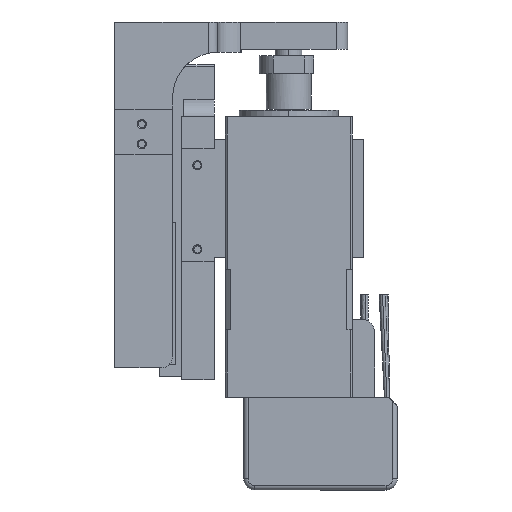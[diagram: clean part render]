
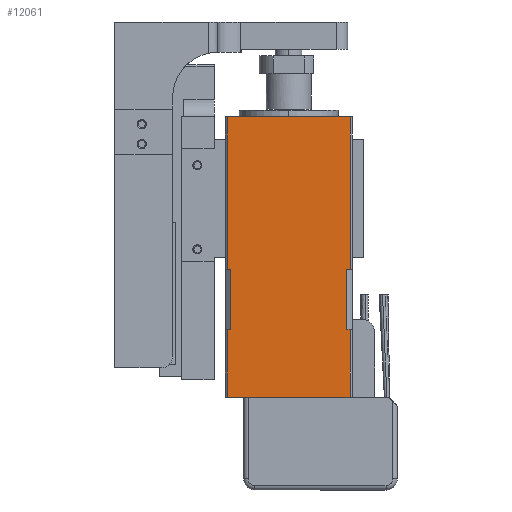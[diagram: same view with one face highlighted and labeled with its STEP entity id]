
A CAD part, left-side view. The second image highlights one B-rep face of the part: STEP entity #12061.
In plain terms, the highlighted planar face has unit normal (-1, 0, 0).
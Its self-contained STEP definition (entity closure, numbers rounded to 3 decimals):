
#73 = LINE ( 'NONE', #383, #12401 ) ;
#148 = CARTESIAN_POINT ( 'NONE',  ( -14., -12.845, -33.7 ) ) ;
#335 = DIRECTION ( 'NONE',  ( 0., 0., -1. ) ) ;
#383 = CARTESIAN_POINT ( 'NONE',  ( -14., -13.574, -5. ) ) ;
#459 = DIRECTION ( 'NONE',  ( 1., 0., 0. ) ) ;
#648 = CARTESIAN_POINT ( 'NONE',  ( -14., -14., 0. ) ) ;
#971 = LINE ( 'NONE', #12587, #11024 ) ;
#994 = VERTEX_POINT ( 'NONE', #148 ) ;
#1043 = EDGE_CURVE ( 'NONE', #994, #1183, #2424, .T. ) ;
#1183 = VERTEX_POINT ( 'NONE', #4510 ) ;
#1210 = CARTESIAN_POINT ( 'NONE',  ( -14., 13.574, -62. ) ) ;
#1272 = CARTESIAN_POINT ( 'NONE',  ( -14., -13.574, -62. ) ) ;
#1321 = ORIENTED_EDGE ( 'NONE', *, *, #2372, .T. ) ;
#1590 = LINE ( 'NONE', #648, #8753 ) ;
#1764 = LINE ( 'NONE', #7436, #4047 ) ;
#1771 = CARTESIAN_POINT ( 'NONE',  ( -14., 13.574, -33.7 ) ) ;
#1934 = VECTOR ( 'NONE', #335, 1000. ) ;
#2056 = CARTESIAN_POINT ( 'NONE',  ( -14., 13.574, -62. ) ) ;
#2077 = ORIENTED_EDGE ( 'NONE', *, *, #3410, .T. ) ;
#2198 = ORIENTED_EDGE ( 'NONE', *, *, #12010, .F. ) ;
#2221 = FACE_OUTER_BOUND ( 'NONE', #9623, .T. ) ;
#2355 = ORIENTED_EDGE ( 'NONE', *, *, #7092, .T. ) ;
#2372 = EDGE_CURVE ( 'NONE', #3060, #2985, #11841, .T. ) ;
#2424 = LINE ( 'NONE', #7195, #9880 ) ;
#2495 = LINE ( 'NONE', #7524, #12542 ) ;
#2543 = LINE ( 'NONE', #5183, #1934 ) ;
#2663 = CARTESIAN_POINT ( 'NONE',  ( -14., -12.845, -47. ) ) ;
#2665 = DIRECTION ( 'NONE',  ( 0., -1., 0. ) ) ;
#2985 = VERTEX_POINT ( 'NONE', #2056 ) ;
#3014 = ORIENTED_EDGE ( 'NONE', *, *, #4073, .F. ) ;
#3060 = VERTEX_POINT ( 'NONE', #9915 ) ;
#3276 = DIRECTION ( 'NONE',  ( 0., 0., 1. ) ) ;
#3364 = CARTESIAN_POINT ( 'NONE',  ( -14., -13.574, 0. ) ) ;
#3372 = ORIENTED_EDGE ( 'NONE', *, *, #1043, .T. ) ;
#3410 = EDGE_CURVE ( 'NONE', #5953, #6923, #6383, .T. ) ;
#3533 = DIRECTION ( 'NONE',  ( 0., -1., 0. ) ) ;
#3540 = LINE ( 'NONE', #1210, #6746 ) ;
#4027 = VERTEX_POINT ( 'NONE', #1272 ) ;
#4047 = VECTOR ( 'NONE', #8410, 1000. ) ;
#4073 = EDGE_CURVE ( 'NONE', #994, #4348, #10000, .T. ) ;
#4074 = VECTOR ( 'NONE', #6298, 1000. ) ;
#4348 = VERTEX_POINT ( 'NONE', #2663 ) ;
#4469 = CARTESIAN_POINT ( 'NONE',  ( -14., 13.574, 0. ) ) ;
#4510 = CARTESIAN_POINT ( 'NONE',  ( -14., -13.574, -33.7 ) ) ;
#4564 = EDGE_CURVE ( 'NONE', #6340, #5953, #2543, .T. ) ;
#5129 = CARTESIAN_POINT ( 'NONE',  ( -14., 13.574, -33.7 ) ) ;
#5183 = CARTESIAN_POINT ( 'NONE',  ( -14., 13.574, -5. ) ) ;
#5188 = DIRECTION ( 'NONE',  ( 0., 0., -1. ) ) ;
#5244 = ORIENTED_EDGE ( 'NONE', *, *, #10934, .F. ) ;
#5288 = CARTESIAN_POINT ( 'NONE',  ( -14., 13.574, -47. ) ) ;
#5294 = AXIS2_PLACEMENT_3D ( 'NONE', #6288, #459, #7274 ) ;
#5481 = ORIENTED_EDGE ( 'NONE', *, *, #7340, .F. ) ;
#5547 = VECTOR ( 'NONE', #5188, 1000. ) ;
#5830 = ORIENTED_EDGE ( 'NONE', *, *, #4564, .T. ) ;
#5953 = VERTEX_POINT ( 'NONE', #1771 ) ;
#6224 = DIRECTION ( 'NONE',  ( 0., -1., 0. ) ) ;
#6288 = CARTESIAN_POINT ( 'NONE',  ( -14., 13.574, -47. ) ) ;
#6298 = DIRECTION ( 'NONE',  ( 0., 0., -1. ) ) ;
#6340 = VERTEX_POINT ( 'NONE', #4469 ) ;
#6383 = LINE ( 'NONE', #5129, #8363 ) ;
#6746 = VECTOR ( 'NONE', #8037, 1000. ) ;
#6828 = VECTOR ( 'NONE', #7190, 1000. ) ;
#6923 = VERTEX_POINT ( 'NONE', #7965 ) ;
#7072 = DIRECTION ( 'NONE',  ( 0., -1., 0. ) ) ;
#7092 = EDGE_CURVE ( 'NONE', #1183, #12483, #73, .T. ) ;
#7190 = DIRECTION ( 'NONE',  ( 0., 0., -1. ) ) ;
#7195 = CARTESIAN_POINT ( 'NONE',  ( -14., 13.574, -33.7 ) ) ;
#7274 = DIRECTION ( 'NONE',  ( 0., -1., 0. ) ) ;
#7340 = EDGE_CURVE ( 'NONE', #4348, #11099, #2495, .T. ) ;
#7436 = CARTESIAN_POINT ( 'NONE',  ( -14., 13.574, -47. ) ) ;
#7495 = EDGE_CURVE ( 'NONE', #6923, #10459, #971, .T. ) ;
#7524 = CARTESIAN_POINT ( 'NONE',  ( -14., 13.574, -47. ) ) ;
#7965 = CARTESIAN_POINT ( 'NONE',  ( -14., 12.845, -33.7 ) ) ;
#8037 = DIRECTION ( 'NONE',  ( 0., -1., 0. ) ) ;
#8363 = VECTOR ( 'NONE', #7072, 1000. ) ;
#8410 = DIRECTION ( 'NONE',  ( 0., -1., 0. ) ) ;
#8578 = EDGE_CURVE ( 'NONE', #2985, #4027, #3540, .T. ) ;
#8711 = DIRECTION ( 'NONE',  ( 0., 0., -1. ) ) ;
#8753 = VECTOR ( 'NONE', #3533, 1000. ) ;
#9557 = ORIENTED_EDGE ( 'NONE', *, *, #11827, .F. ) ;
#9623 = EDGE_LOOP ( 'NONE', ( #3014, #3372, #2355, #9557, #5830, #2077, #10625, #5244, #1321, #10681, #2198, #5481 ) ) ;
#9662 = CARTESIAN_POINT ( 'NONE',  ( -14., -13.574, -47. ) ) ;
#9880 = VECTOR ( 'NONE', #6224, 1000. ) ;
#9915 = CARTESIAN_POINT ( 'NONE',  ( -14., 13.574, -47. ) ) ;
#10000 = LINE ( 'NONE', #12034, #6828 ) ;
#10097 = PLANE ( 'NONE',  #5294 ) ;
#10100 = LINE ( 'NONE', #11009, #5547 ) ;
#10459 = VERTEX_POINT ( 'NONE', #12590 ) ;
#10625 = ORIENTED_EDGE ( 'NONE', *, *, #7495, .T. ) ;
#10681 = ORIENTED_EDGE ( 'NONE', *, *, #8578, .T. ) ;
#10934 = EDGE_CURVE ( 'NONE', #3060, #10459, #1764, .T. ) ;
#11009 = CARTESIAN_POINT ( 'NONE',  ( -14., -13.574, -47. ) ) ;
#11024 = VECTOR ( 'NONE', #8711, 1000. ) ;
#11099 = VERTEX_POINT ( 'NONE', #9662 ) ;
#11827 = EDGE_CURVE ( 'NONE', #6340, #12483, #1590, .T. ) ;
#11841 = LINE ( 'NONE', #5288, #4074 ) ;
#12010 = EDGE_CURVE ( 'NONE', #11099, #4027, #10100, .T. ) ;
#12034 = CARTESIAN_POINT ( 'NONE',  ( -14., -12.845, -48.65 ) ) ;
#12061 = ADVANCED_FACE ( 'NONE', ( #2221 ), #10097, .F. ) ;
#12401 = VECTOR ( 'NONE', #3276, 1000. ) ;
#12483 = VERTEX_POINT ( 'NONE', #3364 ) ;
#12542 = VECTOR ( 'NONE', #2665, 1000. ) ;
#12587 = CARTESIAN_POINT ( 'NONE',  ( -14., 12.845, -48.65 ) ) ;
#12590 = CARTESIAN_POINT ( 'NONE',  ( -14., 12.845, -47. ) ) ;
